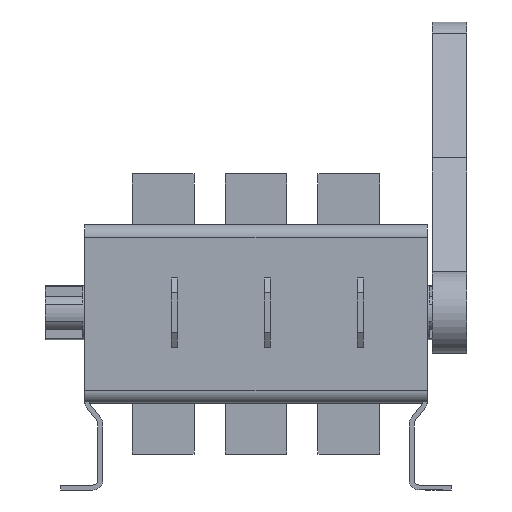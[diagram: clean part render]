
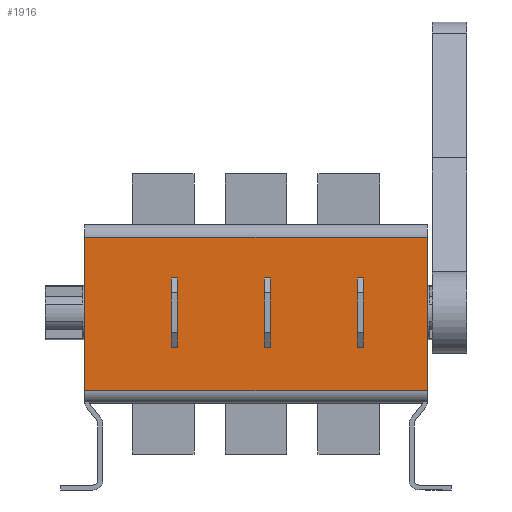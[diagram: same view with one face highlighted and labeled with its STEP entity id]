
A CAD part, front view. The second image highlights one B-rep face of the part: STEP entity #1916.
In plain terms, the highlighted planar face has unit normal (0, -1, 0).
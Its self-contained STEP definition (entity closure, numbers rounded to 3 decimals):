
#93 = EDGE_LOOP ( 'NONE', ( #2630, #11354, #10918, #9090 ) ) ;
#482 = CARTESIAN_POINT ( 'NONE',  ( -69., -70., -5. ) ) ;
#660 = EDGE_CURVE ( 'NONE', #9211, #8321, #7907, .T. ) ;
#1916 = ADVANCED_FACE ( 'NONE', ( #11249 ), #4337, .T. ) ;
#2032 = CARTESIAN_POINT ( 'NONE',  ( -69., -70., -67. ) ) ;
#2475 = LINE ( 'NONE', #3901, #10479 ) ;
#2517 = VERTEX_POINT ( 'NONE', #2032 ) ;
#2630 = ORIENTED_EDGE ( 'NONE', *, *, #2779, .F. ) ;
#2779 = EDGE_CURVE ( 'NONE', #2517, #8321, #5520, .T. ) ;
#2953 = AXIS2_PLACEMENT_3D ( 'NONE', #6110, #10573, #5996 ) ;
#3682 = EDGE_CURVE ( 'NONE', #9535, #9211, #2475, .T. ) ;
#3821 = DIRECTION ( 'NONE',  ( 0., 0., 1. ) ) ;
#3899 = DIRECTION ( 'NONE',  ( 0., 0., 1. ) ) ;
#3901 = CARTESIAN_POINT ( 'NONE',  ( 69., -70., -72. ) ) ;
#4337 = PLANE ( 'NONE',  #2953 ) ;
#5173 = CARTESIAN_POINT ( 'NONE',  ( 69., -70., -5. ) ) ;
#5506 = VECTOR ( 'NONE', #9976, 1000. ) ;
#5520 = LINE ( 'NONE', #9528, #9092 ) ;
#5815 = CARTESIAN_POINT ( 'NONE',  ( -69., -70., -5. ) ) ;
#5847 = CARTESIAN_POINT ( 'NONE',  ( 69., -70., -67. ) ) ;
#5996 = DIRECTION ( 'NONE',  ( 0., 0., -1. ) ) ;
#6110 = CARTESIAN_POINT ( 'NONE',  ( -69., -70., -72. ) ) ;
#6390 = VECTOR ( 'NONE', #7475, 1000. ) ;
#6634 = EDGE_CURVE ( 'NONE', #2517, #9535, #7844, .T. ) ;
#7475 = DIRECTION ( 'NONE',  ( -1., 0., 0. ) ) ;
#7844 = LINE ( 'NONE', #11035, #5506 ) ;
#7907 = LINE ( 'NONE', #482, #6390 ) ;
#8321 = VERTEX_POINT ( 'NONE', #5815 ) ;
#9090 = ORIENTED_EDGE ( 'NONE', *, *, #660, .T. ) ;
#9092 = VECTOR ( 'NONE', #3899, 1000. ) ;
#9211 = VERTEX_POINT ( 'NONE', #5173 ) ;
#9528 = CARTESIAN_POINT ( 'NONE',  ( -69., -70., -72. ) ) ;
#9535 = VERTEX_POINT ( 'NONE', #5847 ) ;
#9976 = DIRECTION ( 'NONE',  ( 1., 0., 0. ) ) ;
#10479 = VECTOR ( 'NONE', #3821, 1000. ) ;
#10573 = DIRECTION ( 'NONE',  ( 0., -1., 0. ) ) ;
#10918 = ORIENTED_EDGE ( 'NONE', *, *, #3682, .T. ) ;
#11035 = CARTESIAN_POINT ( 'NONE',  ( 69., -70., -67. ) ) ;
#11249 = FACE_OUTER_BOUND ( 'NONE', #93, .T. ) ;
#11354 = ORIENTED_EDGE ( 'NONE', *, *, #6634, .T. ) ;
